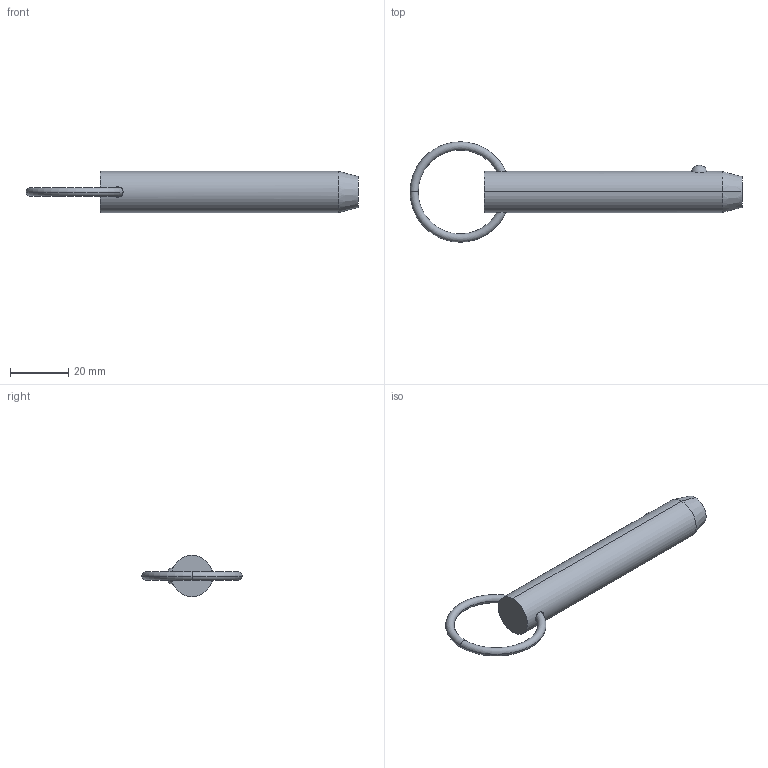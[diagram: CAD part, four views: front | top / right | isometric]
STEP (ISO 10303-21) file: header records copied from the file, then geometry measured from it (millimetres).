
FILE_DESCRIPTION (( 'STEP AP203' ), '1' );
FILE_NAME ('33010.W5625.step', '2024-11-01T10:39:58', ( '' ), ( '' ), 'SwSTEP 2.0', 'SolidWorks 2019', '' );
FILE_SCHEMA (( 'CONFIG_CONTROL_DESIGN' ));
Length unit declared in the file: millimetre
Products named in the file (3): Part1_33010.W5625; Part2_33010.W5625; 33010.W5625
Assembly tree (2 placements, depth 2):
  33010.W5625
    Part1_33010.W5625
    Part2_33010.W5625
Bounding box: 114.4 x 34.59 x 14.22 mm (x, y, z)
Volume: 14393 mm3; surface area: 5238.5 mm2
Topology: 2 solids, 2 shells, 16 faces, 31 edges, 18 vertices
Faces by surface type: torus 8, sphere 2, cone 2, cylinder 2, plane 2
Entity records: 875 total; most frequent: CARTESIAN_POINT 232, DIRECTION 88, ORIENTED_EDGE 62, AXIS2_PLACEMENT_3D 42, EDGE_CURVE 31, PERSON_AND_ORGANIZATION 26, CIRCLE 21, DATE_AND_TIME 19
